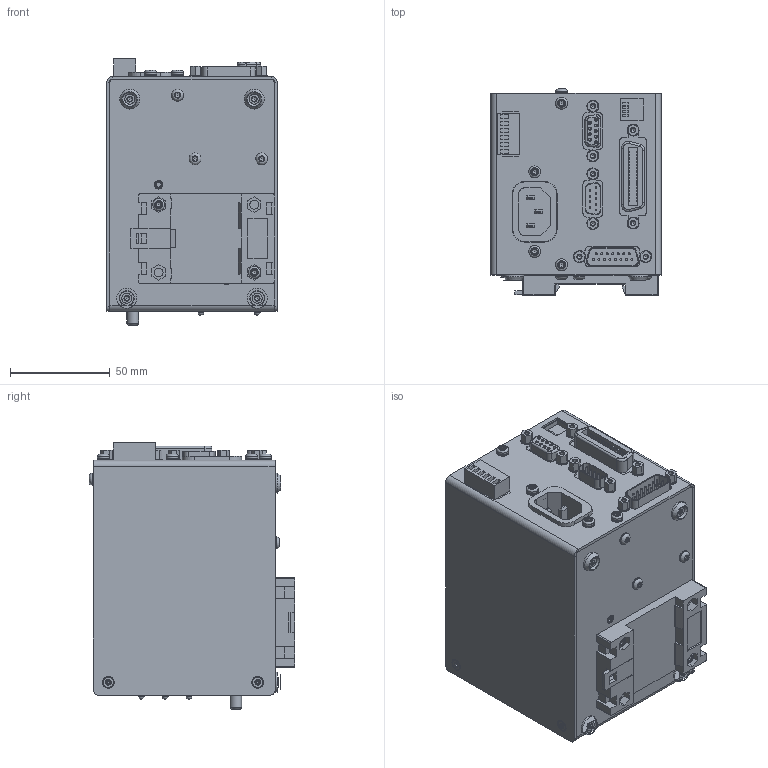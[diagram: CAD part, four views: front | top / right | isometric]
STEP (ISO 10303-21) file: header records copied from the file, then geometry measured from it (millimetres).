
FILE_DESCRIPTION(/* description */ (''),/* implementation_level */ '2;1');
FILE_NAME(/* name */ 'A:\Data\PSC488\step file\PSC488.stp',/* time_stamp */ '2021-01-04T16:33:19+01:00',/* author */ ('Delta'),/* organization */ (''),/* preprocessor_version */ 'ST-DEVELOPER v17.2',/* originating_system */ 'Autodesk Inventor 2019',/* authorisation */ '');
FILE_SCHEMA (('AUTOMOTIVE_DESIGN { 1 0 10303 214 3 1 1 }'));
Products named in the file (1): Assembly psc488_Shrinkwrap_1
Bounding box: 85.5 x 103.4 x 133.75 mm (x, y, z)
Volume: 937874 mm3; surface area: 74753.1 mm2
Topology: 1 solids, 2 shells, 1867 faces, 4583 edges, 2891 vertices
Faces by surface type: plane 1273, cylinder 216, bspline 184, cone 142, torus 47, sphere 5
Full cylindrical faces by diameter (mm): 0.9 x9, 1 x15, 1.1 x9, 2.156 x8, 2.459 x6, 2.75 x8, 2.9 x5, 3.2 x13, 4.14 x6, 4.3 x6, 4.4 x2, 5 x2, 5.5 x5, 5.8 x1, 6 x23, 10 x4
Entity records: 57567 total; most frequent: CARTESIAN_POINT 12704, ORIENTED_EDGE 9112, DIRECTION 8294, EDGE_CURVE 4556, LINE 3026, VECTOR 3026, VERTEX_POINT 2891, AXIS2_PLACEMENT_3D 2634
